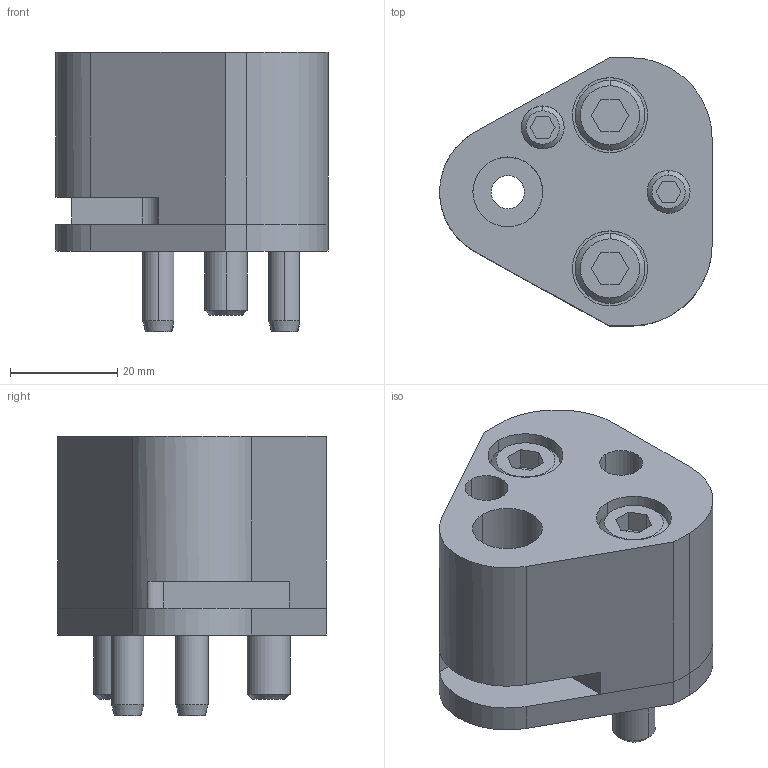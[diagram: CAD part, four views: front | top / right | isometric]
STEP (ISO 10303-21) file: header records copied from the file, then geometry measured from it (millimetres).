
FILE_DESCRIPTION(/* description */ (''),/* implementation_level */ '2;1');
FILE_NAME(/* name */ '3d_crn-fp13_03651_r00.stp',/* time_stamp */ '2011-01-10T14:16:21+09:00',/* author */ ('MISUMI'),/* organization */ (''),/* preprocessor_version */ 'ST-DEVELOPER v11',/* originating_system */ 'UGS - NX 5.0',/* authorisation */ '');
FILE_SCHEMA (('CONFIG_CONTROL_DESIGN'));
Length unit declared in the file: millimetre
Products named in the file (1): 3d_crn-fp13_03651_r00
Bounding box: 50.77 x 50 x 52 mm (x, y, z)
Volume: 61956.9 mm3; surface area: 22864.3 mm2
Topology: 8 solids, 8 shells, 156 faces, 358 edges, 231 vertices
Faces by surface type: plane 69, cylinder 61, cone 26
Entity records: 4585 total; most frequent: DIRECTION 815, CARTESIAN_POINT 805, ORIENTED_EDGE 716, EDGE_CURVE 358, AXIS2_PLACEMENT_3D 307, VERTEX_POINT 231, LINE 201, VECTOR 201
